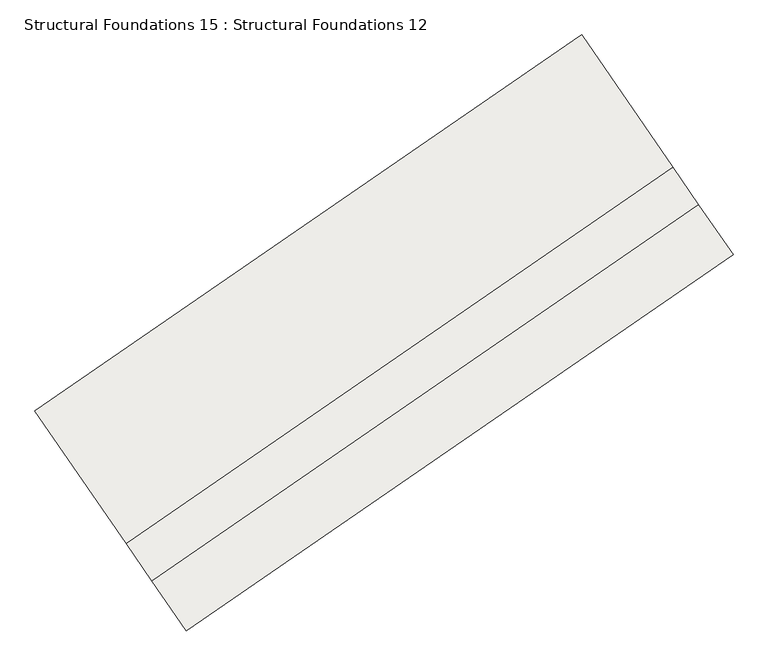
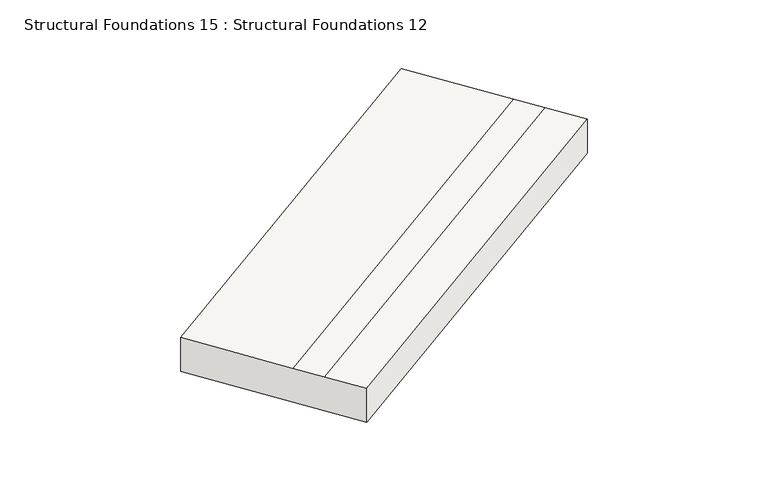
"""IFC4 building model written with IfcOpenShell, lengths in millimetres: slab geometry, Structural Foundations 15 : Structural Foundations 12."""

from ifc_helpers import new_model, si_unit, origin, place, context, project, spatial, faceted_brep, source, transform, mapped, element, save


def structural_foundations_15_structural_foundations_12_5a428f9a(model_context):
    return source(origin(), model_context, "Body", "Brep", [
        faceted_brep([(-319129.015791, -420936.3492983, 634109.0000001), (-319129.015791, -420936.3492983, 634809.0000001), (-317934.9156831, -422669.8861263, 634808.9999998), (-317597.3909502, -423159.8882215, 634808.9999997), (-317143.5761821, -423818.7145699, 634808.9999996), (-317143.5761821, -423818.7145699, 634108.9999996), (-326293.7523234, -425871.5848977, 634036.0000001), (-324308.3127144, -428753.9501693, 634035.9999996), (-324308.3127144, -428753.9501693, 634735.9999996), (-324762.1274826, -428095.1238209, 634735.9999997), (-325099.6522155, -427605.1217257, 634735.9999998), (-326293.7523234, -425871.5848977, 634736.0000001)], [[[0, 1, 2, 3, 4, 5]], [[6, 7, 8, 9, 10, 11]], [[6, 11, 1, 0]], [[11, 10, 2, 1]], [[10, 9, 3, 2]], [[9, 8, 4, 3]], [[8, 7, 5, 4]], [[7, 6, 0, 5]]]),
    ])


if __name__ == "__main__":
    model = new_model("IFC4")
    model_context = context("Model", 3, world=origin())
    ifc_project = project(units=[si_unit("LENGTHUNIT", "METRE", prefix="MILLI")], contexts=[model_context])
    site = spatial("IfcSite", under=ifc_project)
    building = spatial("IfcBuilding", under=site)
    placement = place(None, origin())
    structural_foundations_15_structural_foundations_12_shape = structural_foundations_15_structural_foundations_12_5a428f9a(model_context)
    element("IfcSlab", 1, ObjectType="Structural Foundations 15 : Structural Foundations 12", at=placement, inside=building, context=model_context, shape_type="MappedRepresentation", body=[
        mapped(structural_foundations_15_structural_foundations_12_shape, transform((0.0, 0.0, 0.0), x_axis=(1.0, 0.0, 0.0), y_axis=(0.0, 1.0, 0.0), z_axis=(0.0, 0.0, 1.0))),
    ])
    save(model, "model.ifc")
